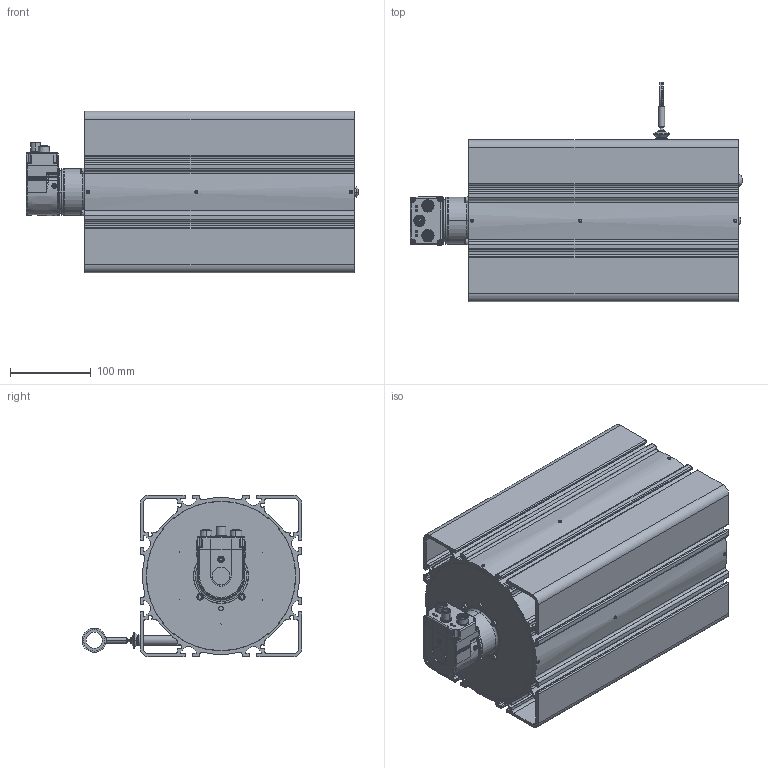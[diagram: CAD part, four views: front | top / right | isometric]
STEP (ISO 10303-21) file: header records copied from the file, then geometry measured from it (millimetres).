
FILE_DESCRIPTION((''),'2;1');
FILE_NAME('WDS-50000-P200-BH-PN_02_ASM','2024-05-28T10:19:47',('15000597'),(''),'CREO PARAMETRIC BY PTC INC, 2022164','CREO PARAMETRIC BY PTC INC, 2022164','');
FILE_SCHEMA(('AUTOMOTIVE_DESIGN { 1 0 10303 214 1 1 1 1 }'));
Products named in the file (40): TELESO_SENZORU_50M_P200_AF0; BOCNICE_VNEJSI_P200_AF0; LOZISKO_6000_10X26X8_AF1; PREDNI_STENA_P200_DIRA_S_POJIST_AF0; SROUB_ISO7380_COC_HEX_C_M5X10_AF0; TRUBKA_PRUCHODKY_P200_AF0; PRUCHODKA_P200; GUMOVY_VLNOVEC; STIRATKO_LANKO_FORMA_0I8; DUTY_NYT_A_3X10; GP_7I5X2I0X25_EXT_EPDM60; LANKO_7X7_0I63_0I8_AF0; OKO_LANKA_TRE; CU-TRUBICKA_2X1I4X5_NEPOUZIVAT_AF0; SPOJKA_GS5_PR6_2I1_AF0; KOLIK_PRUZNY_2X8_AF0; PODLOZKA_M4_VEJIROVA_AF0; PODLOZKA_M4_VEJIROVA_AF1; PODLOZKA_M4_VEJIROVA_AF2; PODLOZKA_M4_VEJIROVA_AF3; SROUB_ISO4762_VALC_HEX_M4X6_AF0; SROUB_ISO4762_VALC_HEX_M4X6_AF1; SROUB_ISO4762_VALC_HEX_M4X6_AF2; SROUB_ISO4762_VALC_HEX_M4X6_AF3; SROUB_ISO7380_COC_HEX_M8X8_AF0; PRIRUBA_SYNCHRO_P96_P200_AF0; SPOJKA_KRIZ_AF0; SROUB_ISO4029_STAV_HEX_M4X4; SROUB_ISO4029_STAV_HEX_M4X4_AF0; SROUB_ISO4029_STAV_HEX_M4X4_AF1; SROUB_ISO4029_STAV_HEX_M4X4_AF2; SROUB_ISO4029_STAV_HEX_M4X4_AF3; SROUB_ISO4029_STAV_HEX_M4X4_AF4; SROUB_ISO4029_STAV_HEX_M4X4_AF5; SROUB_ISO4029_STAV_HEX_M4X4_AF6; SROUB_ISO4029_STAV_HEX_M4X4_AF7; SPOJKA_GS5_PR6_AF0; SROUB_ISO4029_STAV_HEX_M3X3_AF0; BAU_SYNCHRO_PN_EAL580-SV6I4WPT_AF0; WDS-50000-P200-BH-PN_02_ASM
Assembly tree (42 placements, depth 2):
  WDS-50000-P200-BH-PN_02_ASM
    TELESO_SENZORU_50M_P200_AF0
    BOCNICE_VNEJSI_P200_AF0
    LOZISKO_6000_10X26X8_AF1
    PREDNI_STENA_P200_DIRA_S_POJIST_AF0
    SROUB_ISO7380_COC_HEX_C_M5X10_AF0
    TRUBKA_PRUCHODKY_P200_AF0
    PRUCHODKA_P200
    GUMOVY_VLNOVEC
    STIRATKO_LANKO_FORMA_0I8
    DUTY_NYT_A_3X10
    GP_7I5X2I0X25_EXT_EPDM60
    LANKO_7X7_0I63_0I8_AF0
    OKO_LANKA_TRE
    CU-TRUBICKA_2X1I4X5_NEPOUZIVAT_AF0
    SPOJKA_GS5_PR6_2I1_AF0
    KOLIK_PRUZNY_2X8_AF0
    PODLOZKA_M4_VEJIROVA_AF0
    PODLOZKA_M4_VEJIROVA_AF1
    PODLOZKA_M4_VEJIROVA_AF2
    PODLOZKA_M4_VEJIROVA_AF3
    SROUB_ISO4762_VALC_HEX_M4X6_AF0
    SROUB_ISO4762_VALC_HEX_M4X6_AF1
    SROUB_ISO4762_VALC_HEX_M4X6_AF2
    SROUB_ISO4762_VALC_HEX_M4X6_AF3
    SROUB_ISO7380_COC_HEX_M8X8_AF0
    PRIRUBA_SYNCHRO_P96_P200_AF0
    SPOJKA_KRIZ_AF0
    SROUB_ISO4029_STAV_HEX_M4X4  x4
    SROUB_ISO4029_STAV_HEX_M4X4_AF0
    SROUB_ISO4029_STAV_HEX_M4X4_AF1
    SROUB_ISO4029_STAV_HEX_M4X4_AF2
    SROUB_ISO4029_STAV_HEX_M4X4_AF3
    SROUB_ISO4029_STAV_HEX_M4X4_AF4
    SROUB_ISO4029_STAV_HEX_M4X4_AF5
    SROUB_ISO4029_STAV_HEX_M4X4_AF6
    SROUB_ISO4029_STAV_HEX_M4X4_AF7
    SPOJKA_GS5_PR6_AF0
    SROUB_ISO4029_STAV_HEX_M3X3_AF0
    BAU_SYNCHRO_PN_EAL580-SV6I4WPT_AF0
Bounding box: 410.5 x 271.7 x 200 mm (x, y, z)
Volume: 2130492.8 mm3; surface area: 967617 mm2
Topology: 35 solids, 72 shells, 2486 faces, 6564 edges, 4185 vertices
Faces by surface type: plane 1136, cylinder 747, cone 288, torus 187, bspline 78, sphere 34, revolution 16
Entity records: 117545 total; most frequent: CARTESIAN_POINT 34048, DIRECTION 12620, ORIENTED_EDGE 12532, EDGE_CURVE 6352, AXIS2_PLACEMENT_3D 4691, PRESENTATION_STYLE_ASSIGNMENT 4414, STYLED_ITEM 4414, VERTEX_POINT 4104
